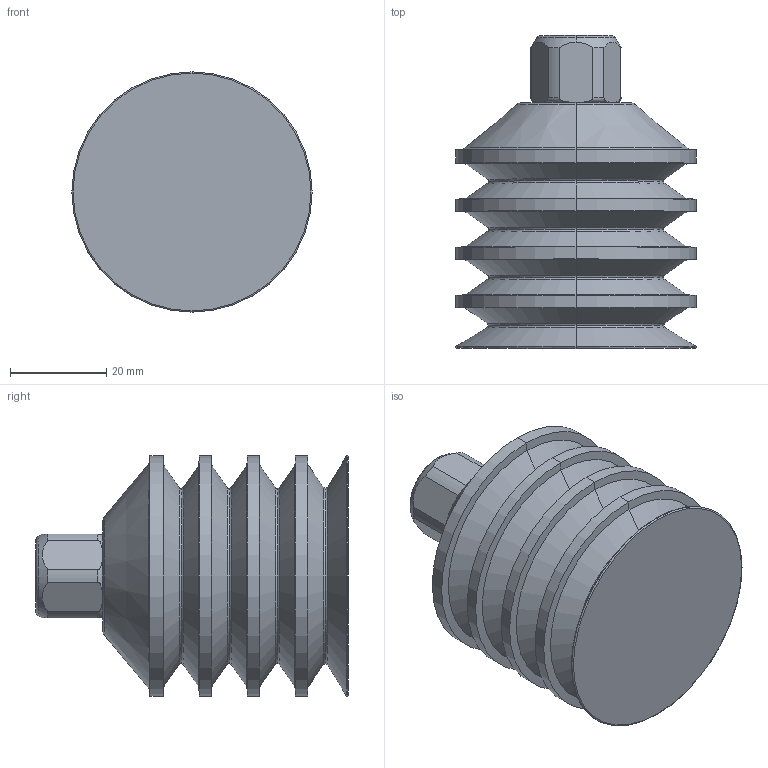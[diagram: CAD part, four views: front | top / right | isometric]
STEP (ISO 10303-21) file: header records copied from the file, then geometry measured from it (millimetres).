
FILE_DESCRIPTION (( 'STEP AP203' ), '1' );
FILE_NAME ('XP-BL50-8F-PUBLIC.STEP', '2011-05-04T15:50:44', ( '' ), ( '' ), 'SwSTEP 2.0', 'SolidWorks 2011', '' );
FILE_SCHEMA (( 'CONFIG_CONTROL_DESIGN' ));
Length unit declared in the file: inch
Products named in the file (1): XP-BL50-8F-PUBLIC
Bounding box: 50 x 65.08 x 50 mm (x, y, z)
Volume: 75521.4 mm3; surface area: 15763.1 mm2
Topology: 1 solids, 1 shells, 92 faces, 196 edges, 108 vertices
Faces by surface type: cone 38, torus 26, cylinder 18, plane 10
Entity records: 2765 total; most frequent: CARTESIAN_POINT 661, DIRECTION 484, ORIENTED_EDGE 392, AXIS2_PLACEMENT_3D 211, EDGE_CURVE 196, CIRCLE 118, VERTEX_POINT 108, EDGE_LOOP 94
